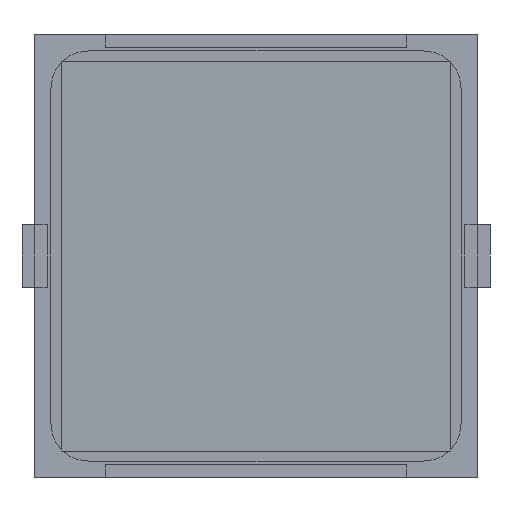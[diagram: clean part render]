
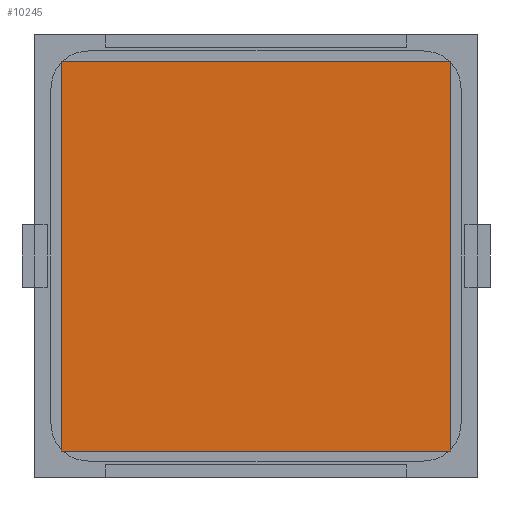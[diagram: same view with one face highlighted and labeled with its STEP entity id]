
A CAD part, front view. The second image highlights one B-rep face of the part: STEP entity #10245.
In plain terms, the highlighted planar face has unit normal (0, -1, 0).
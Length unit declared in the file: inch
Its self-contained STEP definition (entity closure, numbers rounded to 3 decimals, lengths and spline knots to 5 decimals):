
#137 = EDGE_CURVE ( 'NONE', #11016, #9661, #6188, .T. ) ;
#817 = CARTESIAN_POINT ( 'NONE',  ( -0.61024, -0.005, 0.61024 ) ) ;
#974 = CARTESIAN_POINT ( 'NONE',  ( -0.61024, -0.005, -0.61024 ) ) ;
#1218 = DIRECTION ( 'NONE',  ( -1., 0., 0. ) ) ;
#1260 = ORIENTED_EDGE ( 'NONE', *, *, #10139, .F. ) ;
#2119 = CARTESIAN_POINT ( 'NONE',  ( -0.61024, -0.005, 0.61024 ) ) ;
#2144 = DIRECTION ( 'NONE',  ( 1., 0., 0. ) ) ;
#2628 = DIRECTION ( 'NONE',  ( 0., 1., 0. ) ) ;
#2924 = CARTESIAN_POINT ( 'NONE',  ( -0.61024, -0.005, -0.61024 ) ) ;
#3211 = CARTESIAN_POINT ( 'NONE',  ( -0.61024, -0.005, 0.61024 ) ) ;
#3458 = LINE ( 'NONE', #10915, #12994 ) ;
#4209 = LINE ( 'NONE', #3211, #12083 ) ;
#4893 = PLANE ( 'NONE',  #13207 ) ;
#4952 = ORIENTED_EDGE ( 'NONE', *, *, #9385, .F. ) ;
#5089 = CARTESIAN_POINT ( 'NONE',  ( 0.61024, -0.005, -0.61024 ) ) ;
#6020 = DIRECTION ( 'NONE',  ( 0., 0., 1. ) ) ;
#6188 = LINE ( 'NONE', #974, #7018 ) ;
#7018 = VECTOR ( 'NONE', #11449, 39.37008 ) ;
#7119 = VECTOR ( 'NONE', #11497, 39.37008 ) ;
#7942 = EDGE_LOOP ( 'NONE', ( #12479, #9340, #4952, #1260 ) ) ;
#9340 = ORIENTED_EDGE ( 'NONE', *, *, #10367, .F. ) ;
#9385 = EDGE_CURVE ( 'NONE', #11534, #10488, #13529, .T. ) ;
#9661 = VERTEX_POINT ( 'NONE', #2119 ) ;
#10139 = EDGE_CURVE ( 'NONE', #9661, #11534, #4209, .T. ) ;
#10238 = FACE_OUTER_BOUND ( 'NONE', #7942, .T. ) ;
#10245 = ADVANCED_FACE ( 'NONE', ( #10238 ), #4893, .F. ) ;
#10367 = EDGE_CURVE ( 'NONE', #10488, #11016, #3458, .T. ) ;
#10488 = VERTEX_POINT ( 'NONE', #5089 ) ;
#10915 = CARTESIAN_POINT ( 'NONE',  ( -0.61024, -0.005, -0.61024 ) ) ;
#11016 = VERTEX_POINT ( 'NONE', #2924 ) ;
#11449 = DIRECTION ( 'NONE',  ( 0., 0., 1. ) ) ;
#11497 = DIRECTION ( 'NONE',  ( 0., 0., -1. ) ) ;
#11534 = VERTEX_POINT ( 'NONE', #11837 ) ;
#11837 = CARTESIAN_POINT ( 'NONE',  ( 0.61024, -0.005, 0.61024 ) ) ;
#12083 = VECTOR ( 'NONE', #2144, 39.37008 ) ;
#12479 = ORIENTED_EDGE ( 'NONE', *, *, #137, .F. ) ;
#12486 = CARTESIAN_POINT ( 'NONE',  ( 0.61024, -0.005, -0.61024 ) ) ;
#12994 = VECTOR ( 'NONE', #1218, 39.37008 ) ;
#13207 = AXIS2_PLACEMENT_3D ( 'NONE', #817, #2628, #6020 ) ;
#13529 = LINE ( 'NONE', #12486, #7119 ) ;
